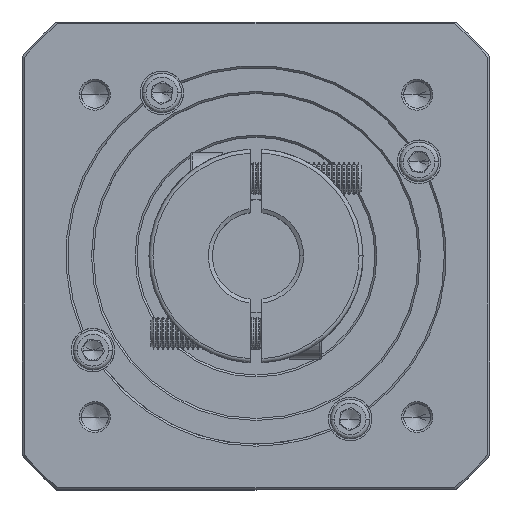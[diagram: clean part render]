
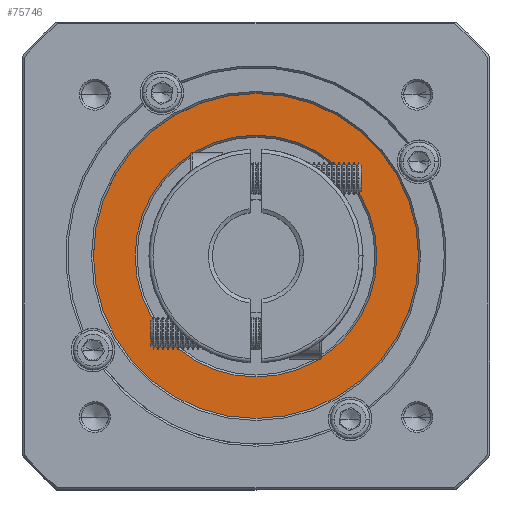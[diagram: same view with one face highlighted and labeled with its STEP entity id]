
A CAD part, top view. The second image highlights one B-rep face of the part: STEP entity #75746.
In plain terms, the highlighted planar face has unit normal (0, 0, 1).
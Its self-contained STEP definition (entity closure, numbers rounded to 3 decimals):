
#180 = DIRECTION ( 'NONE',  ( 0., 0., 1. ) ) ;
#3846 = ORIENTED_EDGE ( 'NONE', *, *, #17698, .T. ) ;
#7242 = CARTESIAN_POINT ( 'NONE',  ( 82.48, 115.772, -19.75 ) ) ;
#7794 = EDGE_CURVE ( 'NONE', #29211, #74717, #11116, .T. ) ;
#8502 = PLANE ( 'NONE',  #102644 ) ;
#8910 = DIRECTION ( 'NONE',  ( 0., 0., 1. ) ) ;
#11116 = CIRCLE ( 'NONE', #114087, 30.5 ) ;
#13728 = CARTESIAN_POINT ( 'NONE',  ( 41.48, 115.772, -19.75 ) ) ;
#14797 = CARTESIAN_POINT ( 'NONE',  ( 0.48, 115.772, -19.75 ) ) ;
#17698 = EDGE_CURVE ( 'NONE', #115843, #107208, #36255, .T. ) ;
#18454 = CARTESIAN_POINT ( 'NONE',  ( 41.48, 115.772, -19.75 ) ) ;
#20194 = CARTESIAN_POINT ( 'NONE',  ( 71.98, 115.772, -19.75 ) ) ;
#23203 = DIRECTION ( 'NONE',  ( 1., 0., 0. ) ) ;
#26312 = FACE_BOUND ( 'NONE', #79381, .T. ) ;
#27917 = DIRECTION ( 'NONE',  ( 1., 0., 0. ) ) ;
#28945 = AXIS2_PLACEMENT_3D ( 'NONE', #56699, #180, #66159 ) ;
#29211 = VERTEX_POINT ( 'NONE', #120747 ) ;
#33438 = ORIENTED_EDGE ( 'NONE', *, *, #35875, .T. ) ;
#35875 = EDGE_CURVE ( 'NONE', #107208, #115843, #81733, .T. ) ;
#36255 = CIRCLE ( 'NONE', #52877, 41. ) ;
#36433 = EDGE_CURVE ( 'NONE', #74717, #29211, #65382, .T. ) ;
#50680 = DIRECTION ( 'NONE',  ( 0., 0., -1. ) ) ;
#52877 = AXIS2_PLACEMENT_3D ( 'NONE', #18454, #84454, #27917 ) ;
#56228 = ORIENTED_EDGE ( 'NONE', *, *, #36433, .T. ) ;
#56699 = CARTESIAN_POINT ( 'NONE',  ( 41.48, 115.772, -19.75 ) ) ;
#65382 = CIRCLE ( 'NONE', #91505, 30.5 ) ;
#65424 = CARTESIAN_POINT ( 'NONE',  ( 41.48, 115.772, -19.75 ) ) ;
#66159 = DIRECTION ( 'NONE',  ( 1., 0., 0. ) ) ;
#74717 = VERTEX_POINT ( 'NONE', #20194 ) ;
#74916 = DIRECTION ( 'NONE',  ( 1., 0., 0. ) ) ;
#75746 = ADVANCED_FACE ( 'NONE', ( #98757, #26312 ), #8502, .T. ) ;
#79381 = EDGE_LOOP ( 'NONE', ( #56228, #93056 ) ) ;
#79754 = DIRECTION ( 'NONE',  ( 0., 0., -1. ) ) ;
#81733 = CIRCLE ( 'NONE', #28945, 41. ) ;
#84454 = DIRECTION ( 'NONE',  ( 0., 0., 1. ) ) ;
#91505 = AXIS2_PLACEMENT_3D ( 'NONE', #107413, #50680, #116894 ) ;
#93056 = ORIENTED_EDGE ( 'NONE', *, *, #7794, .T. ) ;
#98757 = FACE_OUTER_BOUND ( 'NONE', #108202, .T. ) ;
#102644 = AXIS2_PLACEMENT_3D ( 'NONE', #65424, #8910, #74916 ) ;
#107208 = VERTEX_POINT ( 'NONE', #7242 ) ;
#107413 = CARTESIAN_POINT ( 'NONE',  ( 41.48, 115.772, -19.75 ) ) ;
#108202 = EDGE_LOOP ( 'NONE', ( #33438, #3846 ) ) ;
#114087 = AXIS2_PLACEMENT_3D ( 'NONE', #13728, #79754, #23203 ) ;
#115843 = VERTEX_POINT ( 'NONE', #14797 ) ;
#116894 = DIRECTION ( 'NONE',  ( 1., 0., 0. ) ) ;
#120747 = CARTESIAN_POINT ( 'NONE',  ( 10.98, 115.772, -19.75 ) ) ;
